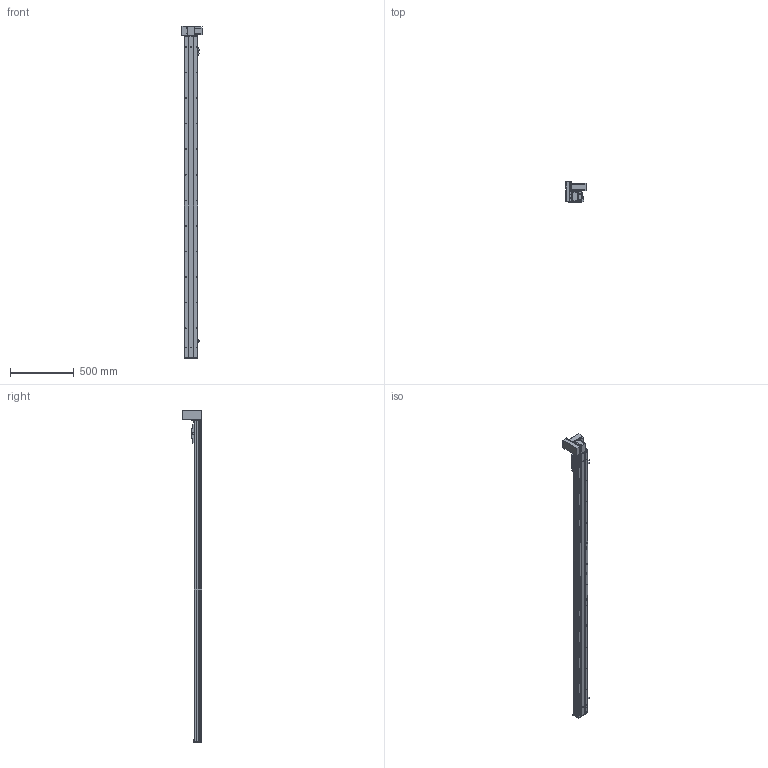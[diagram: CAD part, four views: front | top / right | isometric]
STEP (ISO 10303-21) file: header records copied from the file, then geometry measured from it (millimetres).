
FILE_DESCRIPTION (( 'STEP AP203' ), '1' );
FILE_NAME ('Y10CB-D90-S2250-UL-P400W.STEP', '2020-02-16T08:15:27', ( '微软用户' ), ( '微软中国' ), 'SwSTEP 2.0', 'SolidWorks 2017', '' );
FILE_SCHEMA (( 'CONFIG_CONTROL_DESIGN' ));
Length unit declared in the file: millimetre
Products named in the file (18): 00B-俋欶BM--; 10CB-詩湍-; Y10B--々湍喘謫眊--666; Y10CB- 掛极耜裔啣-毀---; 0CB-雄赽釱---; Y10CB-D90-S2250-UL-P400W; Y10C---詩湍揤啣; 0Cb-俋欶---; 10CB9-掛极; Y10B-々湍喘謫眊楊擘啣--; 10CB-耜裔; 0B-萇儂楊擘啣; Y135C-陔俋离換覜結え-; san松下电机400不带刹车----; Y100-135俋离換覜ん--; 0B-源倛裔啣; Y10B-耜蚾蟀諉啣----; 0B-埴倛裔啣
Assembly tree (21 placements, depth 2):
  Y10CB-D90-S2250-UL-P400W
    0CB-雄赽釱---
    0Cb-俋欶---
    Y10B-々湍喘謫眊楊擘啣--
    0B-萇儂楊擘啣
    san松下电机400不带刹车----
    0B-源倛裔啣
    0B-埴倛裔啣
    10CB-詩湍-
    Y10CB- 掛极耜裔啣-毀---  x2
    Y10C---詩湍揤啣  x2
    10CB9-掛极
    10CB-耜裔
    Y135C-陔俋离換覜結え-
    Y100-135俋离換覜ん--  x3
    Y10B-耜蚾蟀諉啣----
    00B-俋欶BM--
    Y10B--々湍喘謫眊--666
Bounding box: 157 x 155.5 x 2596 mm (x, y, z)
Volume: 5317189.4 mm3; surface area: 2511978.8 mm2
Topology: 21 solids, 21 shells, 1062 faces, 2883 edges, 1874 vertices
Faces by surface type: cylinder 549, plane 489, cone 24
Entity records: 33912 total; most frequent: CARTESIAN_POINT 6357, DIRECTION 5406, ORIENTED_EDGE 5236, EDGE_CURVE 2618, AXIS2_PLACEMENT_3D 1933, VERTEX_POINT 1700, VECTOR 1540, LINE 1540
